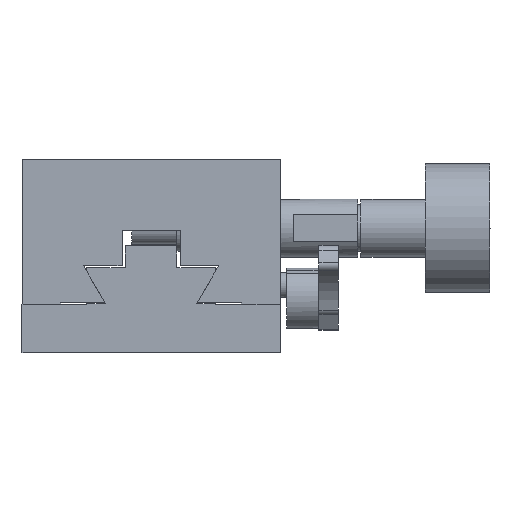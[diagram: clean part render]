
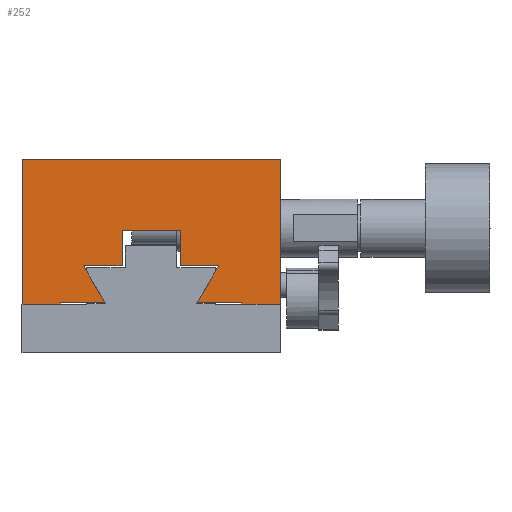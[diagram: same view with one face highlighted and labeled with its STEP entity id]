
A CAD part, left-side view. The second image highlights one B-rep face of the part: STEP entity #252.
In plain terms, the highlighted planar face has unit normal (-1, 0, 0).
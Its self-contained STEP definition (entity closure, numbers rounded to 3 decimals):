
#252 = ADVANCED_FACE( '', ( #524 ), #525, .T. );
#524 = FACE_OUTER_BOUND( '', #874, .T. );
#525 = PLANE( '', #875 );
#874 = EDGE_LOOP( '', ( #1627, #1628, #1629, #1630, #1631, #1632, #1633, #1634, #1635, #1636, #1637, #1638, #1639, #1640, #1641, #1642 ) );
#875 = AXIS2_PLACEMENT_3D( '', #1643, #1644, #1645 );
#1627 = ORIENTED_EDGE( '', *, *, #2269, .T. );
#1628 = ORIENTED_EDGE( '', *, *, #2233, .T. );
#1629 = ORIENTED_EDGE( '', *, *, #2270, .T. );
#1630 = ORIENTED_EDGE( '', *, *, #2271, .T. );
#1631 = ORIENTED_EDGE( '', *, *, #2272, .T. );
#1632 = ORIENTED_EDGE( '', *, *, #2273, .T. );
#1633 = ORIENTED_EDGE( '', *, *, #2181, .T. );
#1634 = ORIENTED_EDGE( '', *, *, #2274, .T. );
#1635 = ORIENTED_EDGE( '', *, *, #2275, .T. );
#1636 = ORIENTED_EDGE( '', *, *, #2276, .T. );
#1637 = ORIENTED_EDGE( '', *, *, #2277, .T. );
#1638 = ORIENTED_EDGE( '', *, *, #2229, .T. );
#1639 = ORIENTED_EDGE( '', *, *, #2278, .T. );
#1640 = ORIENTED_EDGE( '', *, *, #2279, .T. );
#1641 = ORIENTED_EDGE( '', *, *, #2196, .T. );
#1642 = ORIENTED_EDGE( '', *, *, #2280, .F. );
#1643 = CARTESIAN_POINT( '', ( -85., 0., 7.5 ) );
#1644 = DIRECTION( '', ( -1., 0., 0. ) );
#1645 = DIRECTION( '', ( 0., 0., 1. ) );
#2181 = EDGE_CURVE( '', #2585, #2583, #2586, .T. );
#2196 = EDGE_CURVE( '', #2609, #2613, #2615, .T. );
#2229 = EDGE_CURVE( '', #2673, #2674, #2675, .T. );
#2233 = EDGE_CURVE( '', #2681, #2682, #2683, .T. );
#2269 = EDGE_CURVE( '', #2737, #2681, #2738, .T. );
#2270 = EDGE_CURVE( '', #2682, #2739, #2740, .T. );
#2271 = EDGE_CURVE( '', #2739, #2741, #2742, .T. );
#2272 = EDGE_CURVE( '', #2741, #2743, #2744, .T. );
#2273 = EDGE_CURVE( '', #2743, #2585, #2745, .T. );
#2274 = EDGE_CURVE( '', #2583, #2746, #2747, .T. );
#2275 = EDGE_CURVE( '', #2746, #2748, #2749, .T. );
#2276 = EDGE_CURVE( '', #2748, #2750, #2751, .T. );
#2277 = EDGE_CURVE( '', #2750, #2673, #2752, .T. );
#2278 = EDGE_CURVE( '', #2674, #2753, #2754, .T. );
#2279 = EDGE_CURVE( '', #2753, #2609, #2755, .T. );
#2280 = EDGE_CURVE( '', #2737, #2613, #2756, .T. );
#2583 = VERTEX_POINT( '', #3213 );
#2585 = VERTEX_POINT( '', #3216 );
#2586 = LINE( '', #3217, #3218 );
#2609 = VERTEX_POINT( '', #3248 );
#2613 = VERTEX_POINT( '', #3254 );
#2615 = LINE( '', #3257, #3258 );
#2673 = VERTEX_POINT( '', #3392 );
#2674 = VERTEX_POINT( '', #3393 );
#2675 = LINE( '', #3394, #3395 );
#2681 = VERTEX_POINT( '', #3404 );
#2682 = VERTEX_POINT( '', #3405 );
#2683 = LINE( '', #3406, #3407 );
#2737 = VERTEX_POINT( '', #3507 );
#2738 = LINE( '', #3508, #3509 );
#2739 = VERTEX_POINT( '', #3510 );
#2740 = LINE( '', #3511, #3512 );
#2741 = VERTEX_POINT( '', #3513 );
#2742 = LINE( '', #3514, #3515 );
#2743 = VERTEX_POINT( '', #3516 );
#2744 = LINE( '', #3517, #3518 );
#2745 = LINE( '', #3519, #3520 );
#2746 = VERTEX_POINT( '', #3521 );
#2747 = LINE( '', #3522, #3523 );
#2748 = VERTEX_POINT( '', #3524 );
#2749 = LINE( '', #3525, #3526 );
#2750 = VERTEX_POINT( '', #3527 );
#2751 = LINE( '', #3528, #3529 );
#2752 = LINE( '', #3530, #3531 );
#2753 = VERTEX_POINT( '', #3532 );
#2754 = LINE( '', #3533, #3534 );
#2755 = LINE( '', #3535, #3536 );
#2756 = LINE( '', #3537, #3538 );
#3213 = CARTESIAN_POINT( '', ( -85., -4.5, 19. ) );
#3216 = CARTESIAN_POINT( '', ( -85., 4.5, 19. ) );
#3217 = CARTESIAN_POINT( '', ( -85., 0., 19. ) );
#3218 = VECTOR( '', #3907, 1000. );
#3248 = CARTESIAN_POINT( '', ( -85., -20., 30. ) );
#3254 = CARTESIAN_POINT( '', ( -85., 20., 30. ) );
#3257 = CARTESIAN_POINT( '', ( -85., 0., 30. ) );
#3258 = VECTOR( '', #3939, 1000. );
#3392 = CARTESIAN_POINT( '', ( -85., -14., 7.8 ) );
#3393 = CARTESIAN_POINT( '', ( -85., -14., 7.5 ) );
#3394 = CARTESIAN_POINT( '', ( -85., -14., 7.5 ) );
#3395 = VECTOR( '', #3998, 1000. );
#3404 = CARTESIAN_POINT( '', ( -85., 14., 7.5 ) );
#3405 = CARTESIAN_POINT( '', ( -85., 14., 7.8 ) );
#3406 = CARTESIAN_POINT( '', ( -85., 14., 7.5 ) );
#3407 = VECTOR( '', #4002, 1000. );
#3507 = CARTESIAN_POINT( '', ( -85., 20., 7.5 ) );
#3508 = CARTESIAN_POINT( '', ( -85., 0., 7.5 ) );
#3509 = VECTOR( '', #4070, 1000. );
#3510 = CARTESIAN_POINT( '', ( -85., 7.173, 7.8 ) );
#3511 = CARTESIAN_POINT( '', ( -85., 0., 7.8 ) );
#3512 = VECTOR( '', #4071, 1000. );
#3513 = CARTESIAN_POINT( '', ( -85., 10.464, 13.5 ) );
#3514 = CARTESIAN_POINT( '', ( -85., 5.25, 4.469 ) );
#3515 = VECTOR( '', #4072, 1000. );
#3516 = CARTESIAN_POINT( '', ( -85., 4.5, 13.5 ) );
#3517 = CARTESIAN_POINT( '', ( -85., 0., 13.5 ) );
#3518 = VECTOR( '', #4073, 1000. );
#3519 = CARTESIAN_POINT( '', ( -85., 4.5, 7.5 ) );
#3520 = VECTOR( '', #4074, 1000. );
#3521 = CARTESIAN_POINT( '', ( -85., -4.5, 13.5 ) );
#3522 = CARTESIAN_POINT( '', ( -85., -4.5, 7.5 ) );
#3523 = VECTOR( '', #4075, 1000. );
#3524 = CARTESIAN_POINT( '', ( -85., -10.464, 13.5 ) );
#3525 = CARTESIAN_POINT( '', ( -85., 0., 13.5 ) );
#3526 = VECTOR( '', #4076, 1000. );
#3527 = CARTESIAN_POINT( '', ( -85., -7.173, 7.8 ) );
#3528 = CARTESIAN_POINT( '', ( -85., -5.25, 4.469 ) );
#3529 = VECTOR( '', #4077, 1000. );
#3530 = CARTESIAN_POINT( '', ( -85., 0., 7.8 ) );
#3531 = VECTOR( '', #4078, 1000. );
#3532 = CARTESIAN_POINT( '', ( -85., -20., 7.5 ) );
#3533 = CARTESIAN_POINT( '', ( -85., 0., 7.5 ) );
#3534 = VECTOR( '', #4079, 1000. );
#3535 = CARTESIAN_POINT( '', ( -85., -20., 7.5 ) );
#3536 = VECTOR( '', #4080, 1000. );
#3537 = CARTESIAN_POINT( '', ( -85., 20., 7.5 ) );
#3538 = VECTOR( '', #4081, 1000. );
#3907 = DIRECTION( '', ( 0., -1., 0. ) );
#3939 = DIRECTION( '', ( 0., 1., 0. ) );
#3998 = DIRECTION( '', ( 0., 0., -1. ) );
#4002 = DIRECTION( '', ( 0., 0., 1. ) );
#4070 = DIRECTION( '', ( 0., -1., 0. ) );
#4071 = DIRECTION( '', ( 0., -1., 0. ) );
#4072 = DIRECTION( '', ( 0., 0.5, 0.866 ) );
#4073 = DIRECTION( '', ( 0., -1., 0. ) );
#4074 = DIRECTION( '', ( 0., 0., 1. ) );
#4075 = DIRECTION( '', ( 0., 0., -1. ) );
#4076 = DIRECTION( '', ( 0., -1., 0. ) );
#4077 = DIRECTION( '', ( 0., 0.5, -0.866 ) );
#4078 = DIRECTION( '', ( 0., -1., 0. ) );
#4079 = DIRECTION( '', ( 0., -1., 0. ) );
#4080 = DIRECTION( '', ( 0., 0., 1. ) );
#4081 = DIRECTION( '', ( 0., 0., 1. ) );
